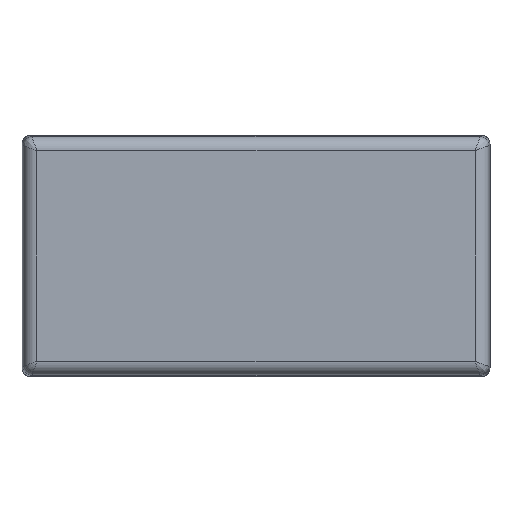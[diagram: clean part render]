
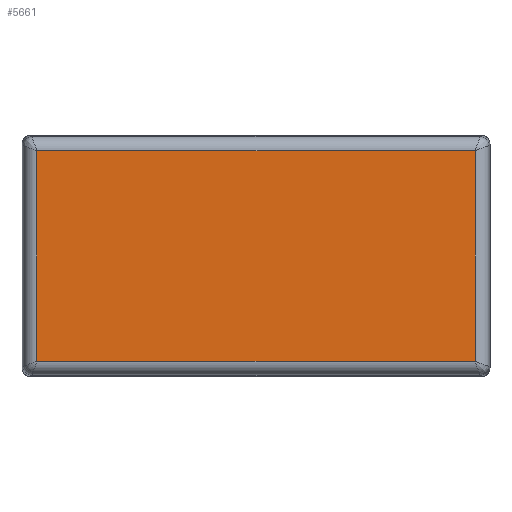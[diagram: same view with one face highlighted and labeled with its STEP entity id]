
A CAD part, front view. The second image highlights one B-rep face of the part: STEP entity #5661.
In plain terms, the highlighted planar face has unit normal (0, -1, 0).
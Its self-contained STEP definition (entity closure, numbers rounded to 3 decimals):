
#214 = LINE ( 'NONE', #6357, #7157 ) ;
#488 = LINE ( 'NONE', #6723, #7411 ) ;
#924 = CARTESIAN_POINT ( 'NONE',  ( 0., 0., 0. ) ) ;
#1081 = AXIS2_PLACEMENT_3D ( 'NONE', #924, #2979, #7613 ) ;
#1177 = EDGE_CURVE ( 'NONE', #5142, #2884, #214, .T. ) ;
#1431 = DIRECTION ( 'NONE',  ( -1., 0., 0. ) ) ;
#1510 = LINE ( 'NONE', #7187, #3531 ) ;
#1655 = DIRECTION ( 'NONE',  ( 0., 0., 1. ) ) ;
#1810 = DIRECTION ( 'NONE',  ( 1., 0., 0. ) ) ;
#2002 = CARTESIAN_POINT ( 'NONE',  ( 50.09, 0., -24.09 ) ) ;
#2498 = CARTESIAN_POINT ( 'NONE',  ( 0., 0., -24.09 ) ) ;
#2558 = EDGE_CURVE ( 'NONE', #3417, #5142, #2606, .T. ) ;
#2606 = LINE ( 'NONE', #2498, #4375 ) ;
#2884 = VERTEX_POINT ( 'NONE', #3946 ) ;
#2979 = DIRECTION ( 'NONE',  ( 0., 1., 0. ) ) ;
#3417 = VERTEX_POINT ( 'NONE', #5413 ) ;
#3531 = VECTOR ( 'NONE', #3892, 1000. ) ;
#3892 = DIRECTION ( 'NONE',  ( 0., 0., -1. ) ) ;
#3904 = FACE_OUTER_BOUND ( 'NONE', #7493, .T. ) ;
#3946 = CARTESIAN_POINT ( 'NONE',  ( 50.09, 0., 24.09 ) ) ;
#4337 = EDGE_CURVE ( 'NONE', #6220, #3417, #1510, .T. ) ;
#4375 = VECTOR ( 'NONE', #1810, 1000. ) ;
#4958 = PLANE ( 'NONE',  #1081 ) ;
#5024 = ORIENTED_EDGE ( 'NONE', *, *, #1177, .T. ) ;
#5142 = VERTEX_POINT ( 'NONE', #2002 ) ;
#5340 = ORIENTED_EDGE ( 'NONE', *, *, #2558, .T. ) ;
#5413 = CARTESIAN_POINT ( 'NONE',  ( -50.09, 0., -24.09 ) ) ;
#5451 = ORIENTED_EDGE ( 'NONE', *, *, #6116, .T. ) ;
#5630 = ORIENTED_EDGE ( 'NONE', *, *, #4337, .T. ) ;
#5661 = ADVANCED_FACE ( 'NONE', ( #3904 ), #4958, .F. ) ;
#6116 = EDGE_CURVE ( 'NONE', #2884, #6220, #488, .T. ) ;
#6220 = VERTEX_POINT ( 'NONE', #7471 ) ;
#6357 = CARTESIAN_POINT ( 'NONE',  ( 50.09, 0., 0. ) ) ;
#6723 = CARTESIAN_POINT ( 'NONE',  ( 0., 0., 24.09 ) ) ;
#7157 = VECTOR ( 'NONE', #1655, 1000. ) ;
#7187 = CARTESIAN_POINT ( 'NONE',  ( -50.09, 0., 0. ) ) ;
#7411 = VECTOR ( 'NONE', #1431, 1000. ) ;
#7471 = CARTESIAN_POINT ( 'NONE',  ( -50.09, 0., 24.09 ) ) ;
#7493 = EDGE_LOOP ( 'NONE', ( #5451, #5630, #5340, #5024 ) ) ;
#7613 = DIRECTION ( 'NONE',  ( 0., 0., 1. ) ) ;
